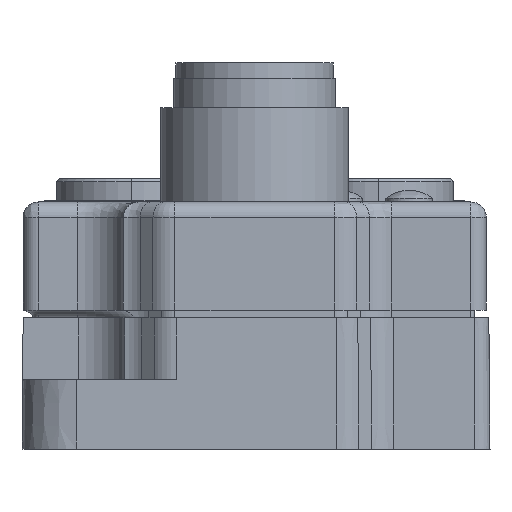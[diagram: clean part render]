
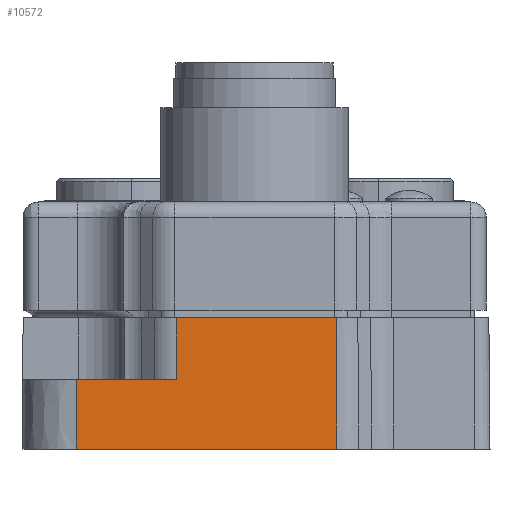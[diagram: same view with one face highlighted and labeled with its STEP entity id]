
A CAD part, front view. The second image highlights one B-rep face of the part: STEP entity #10572.
In plain terms, the highlighted planar face has unit normal (0, -1, 0.009).
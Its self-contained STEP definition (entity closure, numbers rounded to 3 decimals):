
#1321 = CARTESIAN_POINT ( 'NONE',  ( 189.271, 77.548, 0. ) ) ;
#1961 = CARTESIAN_POINT ( 'NONE',  ( 189.271, 77.622, 8.5 ) ) ;
#2518 = CARTESIAN_POINT ( 'NONE',  ( 178.869, 77.587, 4.5 ) ) ;
#2941 = VERTEX_POINT ( 'NONE', #11611 ) ;
#3350 = DIRECTION ( 'NONE',  ( -1., 0., 0. ) ) ;
#3827 = PLANE ( 'NONE',  #15314 ) ;
#3839 = EDGE_LOOP ( 'NONE', ( #8321, #8126, #23112, #17553, #25289, #25385 ) ) ;
#3935 = DIRECTION ( 'NONE',  ( 0., -0.009, -1. ) ) ;
#4512 = LINE ( 'NONE', #15521, #16875 ) ;
#6508 = DIRECTION ( 'NONE',  ( 0., 0.009, 1. ) ) ;
#6636 = LINE ( 'NONE', #33522, #32899 ) ;
#8126 = ORIENTED_EDGE ( 'NONE', *, *, #29971, .T. ) ;
#8321 = ORIENTED_EDGE ( 'NONE', *, *, #18640, .T. ) ;
#8968 = VECTOR ( 'NONE', #15808, 1000. ) ;
#9380 = VERTEX_POINT ( 'NONE', #1961 ) ;
#10316 = VECTOR ( 'NONE', #3350, 1000. ) ;
#10439 = EDGE_CURVE ( 'NONE', #30189, #22110, #33242, .T. ) ;
#10532 = CARTESIAN_POINT ( 'NONE',  ( 184.039, 77.548, 0. ) ) ;
#10571 = EDGE_CURVE ( 'NONE', #33350, #9380, #26704, .T. ) ;
#10572 = ADVANCED_FACE ( 'NONE', ( #18939 ), #3827, .T. ) ;
#10955 = EDGE_CURVE ( 'NONE', #22110, #33350, #22901, .T. ) ;
#11611 = CARTESIAN_POINT ( 'NONE',  ( 178.869, 77.622, 8.5 ) ) ;
#12693 = VECTOR ( 'NONE', #6508, 1000. ) ;
#13756 = CARTESIAN_POINT ( 'NONE',  ( 172.388, 77.548, 0. ) ) ;
#14133 = VERTEX_POINT ( 'NONE', #2518 ) ;
#15314 = AXIS2_PLACEMENT_3D ( 'NONE', #1321, #19752, #3935 ) ;
#15521 = CARTESIAN_POINT ( 'NONE',  ( 178.869, 77.548, 0. ) ) ;
#15808 = DIRECTION ( 'NONE',  ( 1., 0., 0. ) ) ;
#16875 = VECTOR ( 'NONE', #33639, 1000. ) ;
#16995 = CARTESIAN_POINT ( 'NONE',  ( 189.271, 77.548, 0. ) ) ;
#17324 = LINE ( 'NONE', #19186, #10316 ) ;
#17553 = ORIENTED_EDGE ( 'NONE', *, *, #10439, .T. ) ;
#18315 = EDGE_CURVE ( 'NONE', #14133, #30189, #17324, .T. ) ;
#18640 = EDGE_CURVE ( 'NONE', #9380, #2941, #6636, .T. ) ;
#18939 = FACE_OUTER_BOUND ( 'NONE', #3839, .T. ) ;
#19186 = CARTESIAN_POINT ( 'NONE',  ( 189.271, 77.587, 4.5 ) ) ;
#19365 = VECTOR ( 'NONE', #32208, 1000. ) ;
#19752 = DIRECTION ( 'NONE',  ( 0., -1., 0.009 ) ) ;
#22110 = VERTEX_POINT ( 'NONE', #22272 ) ;
#22235 = CARTESIAN_POINT ( 'NONE',  ( 189.271, 77.548, 0. ) ) ;
#22272 = CARTESIAN_POINT ( 'NONE',  ( 172.388, 77.548, 0. ) ) ;
#22901 = LINE ( 'NONE', #10532, #8968 ) ;
#23077 = DIRECTION ( 'NONE',  ( -1., 0., 0. ) ) ;
#23112 = ORIENTED_EDGE ( 'NONE', *, *, #18315, .T. ) ;
#25289 = ORIENTED_EDGE ( 'NONE', *, *, #10955, .T. ) ;
#25385 = ORIENTED_EDGE ( 'NONE', *, *, #10571, .T. ) ;
#26704 = LINE ( 'NONE', #22235, #12693 ) ;
#27020 = CARTESIAN_POINT ( 'NONE',  ( 172.388, 77.587, 4.5 ) ) ;
#29971 = EDGE_CURVE ( 'NONE', #2941, #14133, #4512, .T. ) ;
#30189 = VERTEX_POINT ( 'NONE', #27020 ) ;
#32208 = DIRECTION ( 'NONE',  ( 0., -0.009, -1. ) ) ;
#32899 = VECTOR ( 'NONE', #23077, 1000. ) ;
#33242 = LINE ( 'NONE', #13756, #19365 ) ;
#33350 = VERTEX_POINT ( 'NONE', #16995 ) ;
#33522 = CARTESIAN_POINT ( 'NONE',  ( 189.271, 77.622, 8.5 ) ) ;
#33639 = DIRECTION ( 'NONE',  ( 0., -0.009, -1. ) ) ;
